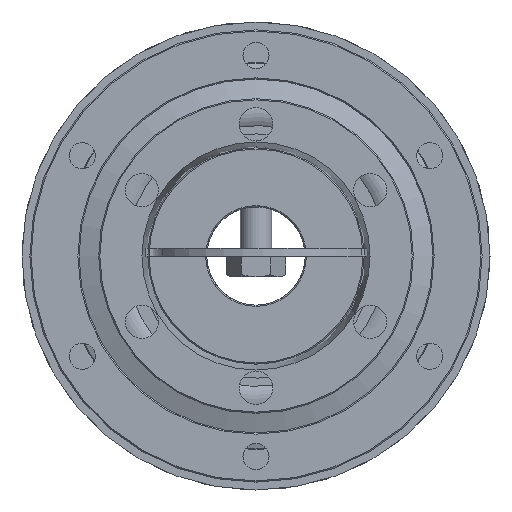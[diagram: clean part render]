
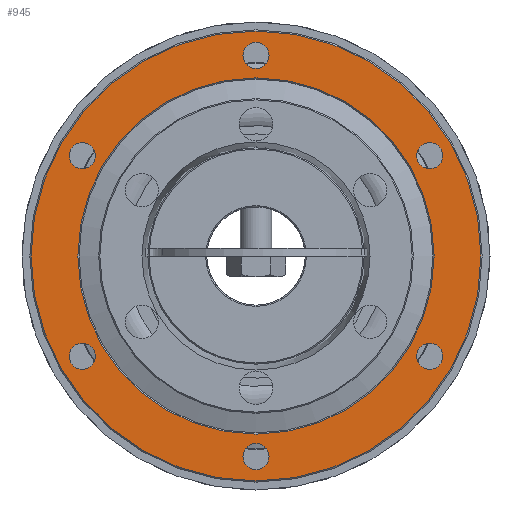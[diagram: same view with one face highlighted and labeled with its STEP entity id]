
A CAD part, left-side view. The second image highlights one B-rep face of the part: STEP entity #945.
In plain terms, the highlighted planar face has unit normal (-1, 0, 0).
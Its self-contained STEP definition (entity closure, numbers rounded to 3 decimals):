
#945 = ADVANCED_FACE( '', ( #1618, #1619, #1620, #1621, #1622, #1623, #1624, #1625 ), #1626, .F. );
#1618 = FACE_OUTER_BOUND( '', #2088, .T. );
#1619 = FACE_BOUND( '', #2089, .T. );
#1620 = FACE_BOUND( '', #2090, .T. );
#1621 = FACE_BOUND( '', #2091, .T. );
#1622 = FACE_BOUND( '', #2092, .T. );
#1623 = FACE_BOUND( '', #2093, .T. );
#1624 = FACE_BOUND( '', #2094, .T. );
#1625 = FACE_BOUND( '', #2095, .T. );
#1626 = PLANE( '', #2096 );
#2088 = EDGE_LOOP( '', ( #2833 ) );
#2089 = EDGE_LOOP( '', ( #2834 ) );
#2090 = EDGE_LOOP( '', ( #2835 ) );
#2091 = EDGE_LOOP( '', ( #2836 ) );
#2092 = EDGE_LOOP( '', ( #2837 ) );
#2093 = EDGE_LOOP( '', ( #2838 ) );
#2094 = EDGE_LOOP( '', ( #2839 ) );
#2095 = EDGE_LOOP( '', ( #2840 ) );
#2096 = AXIS2_PLACEMENT_3D( '', #2841, #2842, #2843 );
#2833 = ORIENTED_EDGE( '', *, *, #3447, .T. );
#2834 = ORIENTED_EDGE( '', *, *, #3442, .T. );
#2835 = ORIENTED_EDGE( '', *, *, #3445, .T. );
#2836 = ORIENTED_EDGE( '', *, *, #3450, .T. );
#2837 = ORIENTED_EDGE( '', *, *, #3451, .T. );
#2838 = ORIENTED_EDGE( '', *, *, #3452, .T. );
#2839 = ORIENTED_EDGE( '', *, *, #3453, .T. );
#2840 = ORIENTED_EDGE( '', *, *, #3454, .T. );
#2841 = CARTESIAN_POINT( '', ( -22.15, 57.5, 0. ) );
#2842 = DIRECTION( '', ( 1., 0., 0. ) );
#2843 = DIRECTION( '', ( 0., 1., 0. ) );
#3442 = EDGE_CURVE( '', #3900, #3900, #3901, .T. );
#3445 = EDGE_CURVE( '', #3906, #3906, #3907, .T. );
#3447 = EDGE_CURVE( '', #3910, #3910, #3911, .T. );
#3450 = EDGE_CURVE( '', #3916, #3916, #3917, .T. );
#3451 = EDGE_CURVE( '', #3918, #3918, #3919, .T. );
#3452 = EDGE_CURVE( '', #3920, #3920, #3921, .T. );
#3453 = EDGE_CURVE( '', #3922, #3922, #3923, .T. );
#3454 = EDGE_CURVE( '', #3924, #3924, #3925, .T. );
#3900 = VERTEX_POINT( '', #4542 );
#3901 = CIRCLE( '', #4543, 45.3 );
#3906 = VERTEX_POINT( '', #4548 );
#3907 = CIRCLE( '', #4549, 3.324 );
#3910 = VERTEX_POINT( '', #4552 );
#3911 = CIRCLE( '', #4553, 57.2 );
#3916 = VERTEX_POINT( '', #4558 );
#3917 = CIRCLE( '', #4559, 3.324 );
#3918 = VERTEX_POINT( '', #4560 );
#3919 = CIRCLE( '', #4561, 3.324 );
#3920 = VERTEX_POINT( '', #4562 );
#3921 = CIRCLE( '', #4563, 3.324 );
#3922 = VERTEX_POINT( '', #4564 );
#3923 = CIRCLE( '', #4565, 3.324 );
#3924 = VERTEX_POINT( '', #4566 );
#3925 = CIRCLE( '', #4567, 3.324 );
#4542 = CARTESIAN_POINT( '', ( -22.15, 0., -45.3 ) );
#4543 = AXIS2_PLACEMENT_3D( '', #4942, #4943, #4944 );
#4548 = CARTESIAN_POINT( '', ( -22.15, 47.046, 27.162 ) );
#4549 = AXIS2_PLACEMENT_3D( '', #4951, #4952, #4953 );
#4552 = CARTESIAN_POINT( '', ( -22.15, 0., -57.2 ) );
#4553 = AXIS2_PLACEMENT_3D( '', #4957, #4958, #4959 );
#4558 = CARTESIAN_POINT( '', ( -22.15, 47.046, -27.162 ) );
#4559 = AXIS2_PLACEMENT_3D( '', #4966, #4967, #4968 );
#4560 = CARTESIAN_POINT( '', ( -22.15, 0., -54.324 ) );
#4561 = AXIS2_PLACEMENT_3D( '', #4969, #4970, #4971 );
#4562 = CARTESIAN_POINT( '', ( -22.15, -47.046, -27.162 ) );
#4563 = AXIS2_PLACEMENT_3D( '', #4972, #4973, #4974 );
#4564 = CARTESIAN_POINT( '', ( -22.15, -47.046, 27.162 ) );
#4565 = AXIS2_PLACEMENT_3D( '', #4975, #4976, #4977 );
#4566 = CARTESIAN_POINT( '', ( -22.15, 0., 54.324 ) );
#4567 = AXIS2_PLACEMENT_3D( '', #4978, #4979, #4980 );
#4942 = CARTESIAN_POINT( '', ( -22.15, 0., 0. ) );
#4943 = DIRECTION( '', ( 1., 0., 0. ) );
#4944 = DIRECTION( '', ( 0., 0., -1. ) );
#4951 = CARTESIAN_POINT( '', ( -22.15, 44.167, 25.5 ) );
#4952 = DIRECTION( '', ( 1., 0., 0. ) );
#4953 = DIRECTION( '', ( 0., 0.866, 0.5 ) );
#4957 = CARTESIAN_POINT( '', ( -22.15, 0., 0. ) );
#4958 = DIRECTION( '', ( -1., 0., 0. ) );
#4959 = DIRECTION( '', ( 0., 0., -1. ) );
#4966 = CARTESIAN_POINT( '', ( -22.15, 44.167, -25.5 ) );
#4967 = DIRECTION( '', ( 1., 0., 0. ) );
#4968 = DIRECTION( '', ( 0., 0.866, -0.5 ) );
#4969 = CARTESIAN_POINT( '', ( -22.15, 0., -51. ) );
#4970 = DIRECTION( '', ( 1., 0., 0. ) );
#4971 = DIRECTION( '', ( 0., 0., -1. ) );
#4972 = CARTESIAN_POINT( '', ( -22.15, -44.167, -25.5 ) );
#4973 = DIRECTION( '', ( 1., 0., 0. ) );
#4974 = DIRECTION( '', ( 0., -0.866, -0.5 ) );
#4975 = CARTESIAN_POINT( '', ( -22.15, -44.167, 25.5 ) );
#4976 = DIRECTION( '', ( 1., 0., 0. ) );
#4977 = DIRECTION( '', ( 0., -0.866, 0.5 ) );
#4978 = CARTESIAN_POINT( '', ( -22.15, 0., 51. ) );
#4979 = DIRECTION( '', ( 1., 0., 0. ) );
#4980 = DIRECTION( '', ( 0., 0., 1. ) );
